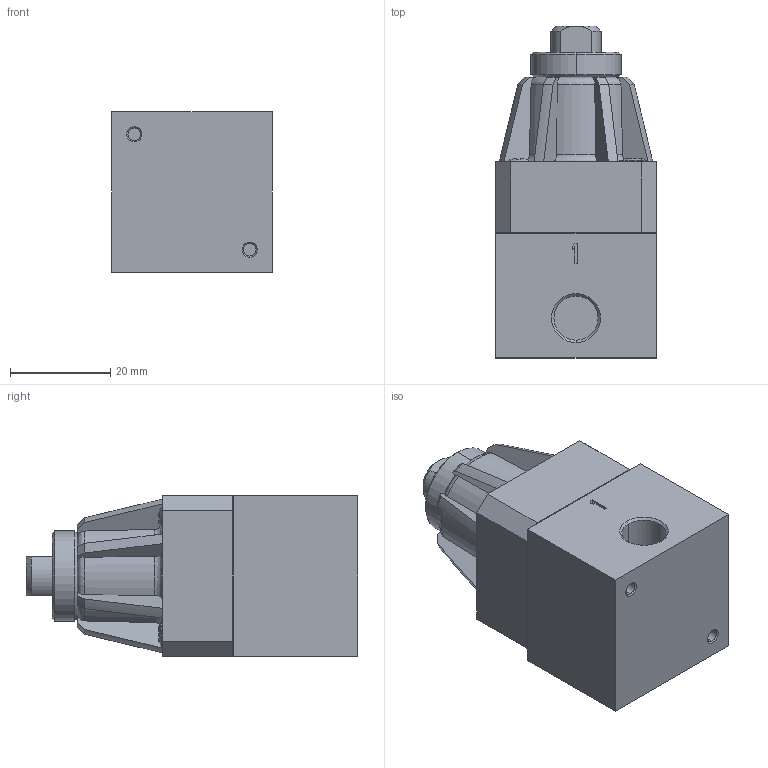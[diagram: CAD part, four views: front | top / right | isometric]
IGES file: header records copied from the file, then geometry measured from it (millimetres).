
Start section:  PTC IGES file: r414010006.igs
Global section: file name: r414010006.igs; native system: Creo Parametric by PTC Inc.; preprocessor: 2016260; author: tng2hc; organization: Unknown; date: 20171220.185501; units: millimetre
Bounding box: 32 x 66.1 x 32 mm (x, y, z)
Surface area: 9878.7 mm2 (no closed solid volume)
Topology: 0 solids, 0 shells, 199 faces, 1050 edges, 1050 vertices
Faces by surface type: bspline 121, revolution 78
